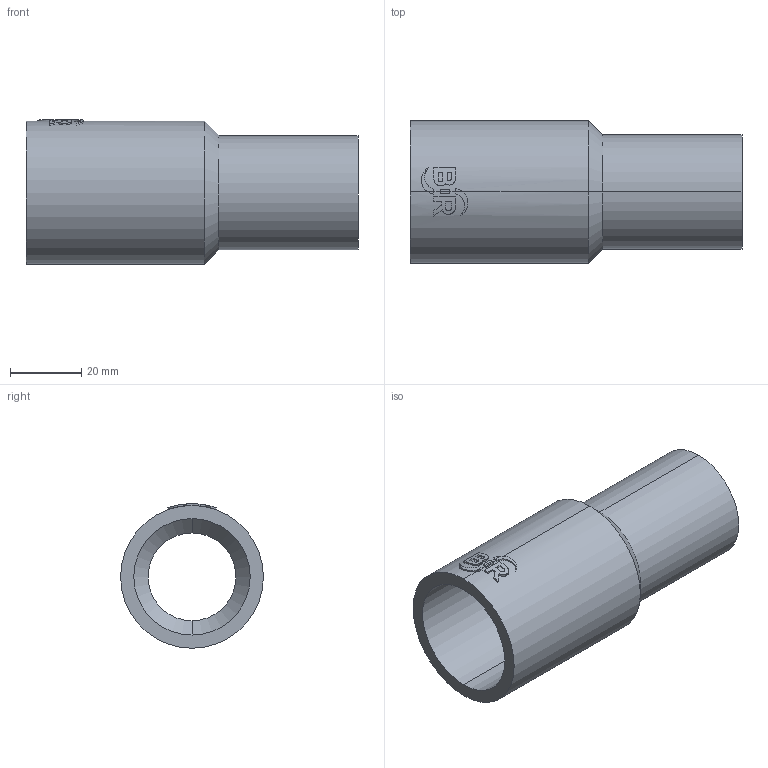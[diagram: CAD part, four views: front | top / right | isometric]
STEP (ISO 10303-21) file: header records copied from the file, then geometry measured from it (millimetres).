
FILE_DESCRIPTION (( 'STEP AP214' ), '1' );
FILE_NAME ('2323090815.STEP', '2018-07-20T10:21:40', ( '' ), ( '' ), 'SwSTEP 2.0', 'SolidWorks 2017', '' );
FILE_SCHEMA (( 'AUTOMOTIVE_DESIGN' ));
Length unit declared in the file: millimetre
Products named in the file (1): 2323090815
Bounding box: 93 x 40 x 40.46 mm (x, y, z)
Volume: 36008.7 mm3; surface area: 20253.6 mm2
Topology: 1 solids, 1 shells, 63 faces, 160 edges, 104 vertices
Faces by surface type: cylinder 31, plane 28, cone 4
Entity records: 2967 total; most frequent: CARTESIAN_POINT 758, ORIENTED_EDGE 320, DIRECTION 296, EDGE_CURVE 160, AXIS2_PLACEMENT_3D 112, VERTEX_POINT 104, VECTOR 72, LINE 72
